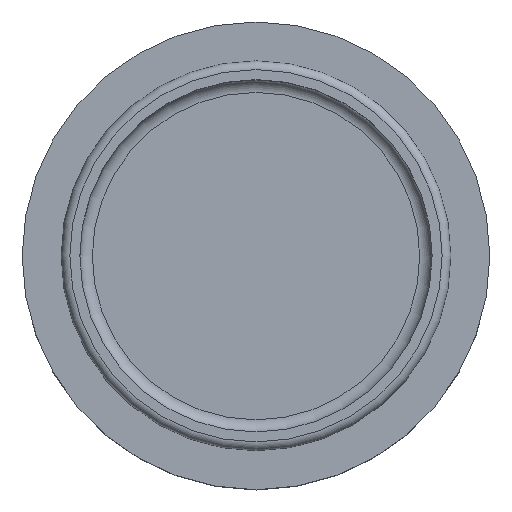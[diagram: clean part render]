
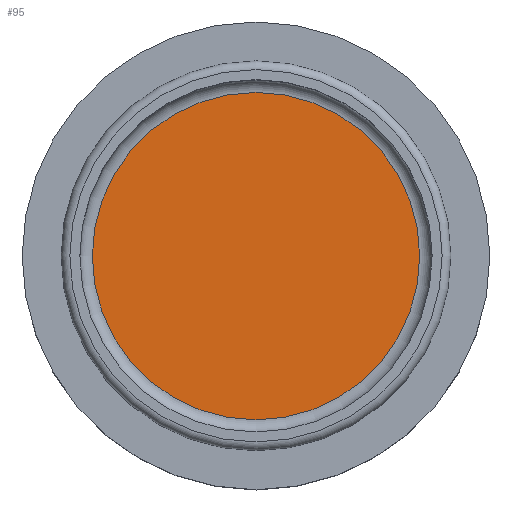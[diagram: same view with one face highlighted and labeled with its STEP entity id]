
A CAD part, top view. The second image highlights one B-rep face of the part: STEP entity #95.
In plain terms, the highlighted planar face has unit normal (0, 0, 1).
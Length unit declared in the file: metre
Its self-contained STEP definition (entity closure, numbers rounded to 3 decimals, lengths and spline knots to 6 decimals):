
#15=PLANE('',#121);
#22=ORIENTED_EDGE('',*,*,#38,.T.);
#38=EDGE_CURVE('',#46,#46,#54,.F.);
#46=VERTEX_POINT('',#181);
#54=CIRCLE('',#122,0.02625);
#62=EDGE_LOOP('',(#22));
#78=FACE_BOUND('',#62,.T.);
#95=ADVANCED_FACE('',(#78),#15,.F.);
#121=AXIS2_PLACEMENT_3D('',#179,#146,#147);
#122=AXIS2_PLACEMENT_3D('',#180,#148,#149);
#146=DIRECTION('',(0.,0.,-1.));
#147=DIRECTION('',(1.,0.,0.));
#148=DIRECTION('',(0.,0.,-1.));
#149=DIRECTION('',(-1.,0.,0.));
#179=CARTESIAN_POINT('',(0.,0.,-0.0468));
#180=CARTESIAN_POINT('',(0.,0.,-0.0468));
#181=CARTESIAN_POINT('',(-0.02625,0.,-0.0468));
